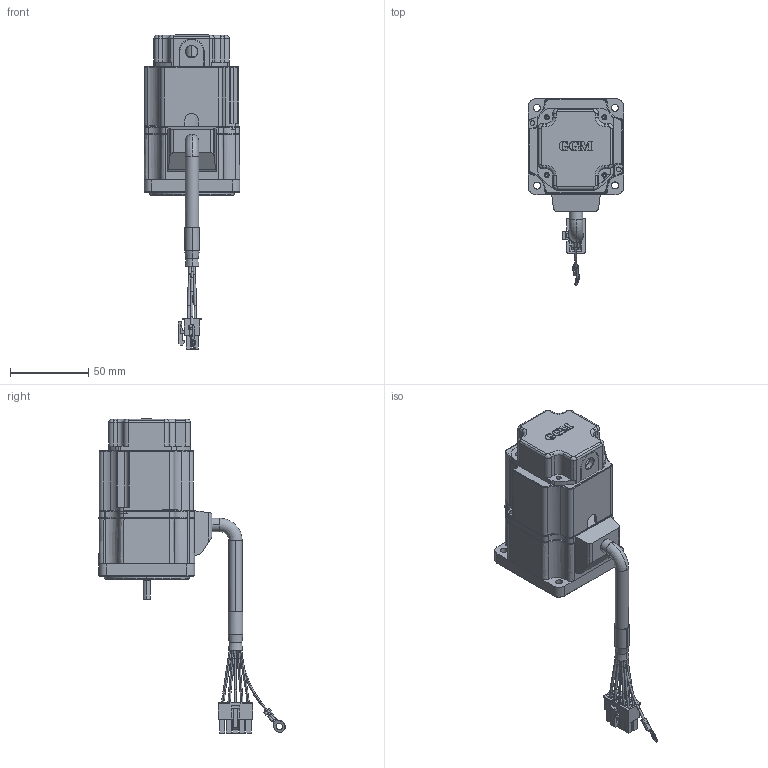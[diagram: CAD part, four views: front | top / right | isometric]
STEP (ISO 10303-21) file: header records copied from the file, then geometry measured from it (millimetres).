
FILE_DESCRIPTION (( 'STEP AP214' ), '1' );
FILE_NAME ('B Series 30w_brake_encoder_H.STEP', '2023-08-16T06:38:30', ( '' ), ( '' ), 'SwSTEP 2.0', 'SolidWorks 2022', '' );
FILE_SCHEMA (( 'AUTOMOTIVE_DESIGN' ));
Length unit declared in the file: millimetre
Products named in the file (7): ENCODER COVER; K6BH20N﹤.stp; B Series 30w_brake_encoder_H; LEAD BUSH.stp; BRAKE COVER 譆謙.stp; B Series 30w_brake_H.stp; ENCODER COVER ASS''Y
Assembly tree (6 placements, depth 3):
  B Series 30w_brake_encoder_H
    B Series 30w_brake_H.stp
      K6BH20N﹤.stp
      BRAKE COVER 譆謙.stp
    ENCODER COVER ASS''Y
      LEAD BUSH.stp
      ENCODER COVER
Bounding box: 61.1 x 118.7 x 200.15 mm (x, y, z)
Volume: 197671.3 mm3; surface area: 71718 mm2
Topology: 13 solids, 13 shells, 1569 faces, 4190 edges, 2655 vertices
Faces by surface type: plane 786, cylinder 461, bspline 177, torus 84, cone 40, sphere 21
Entity records: 59113 total; most frequent: CARTESIAN_POINT 21905, ORIENTED_EDGE 8352, DIRECTION 5636, EDGE_CURVE 4176, VERTEX_POINT 2654, AXIS2_PLACEMENT_3D 2240, B_SPLINE_CURVE_WITH_KNOTS 2077, EDGE_LOOP 1674
